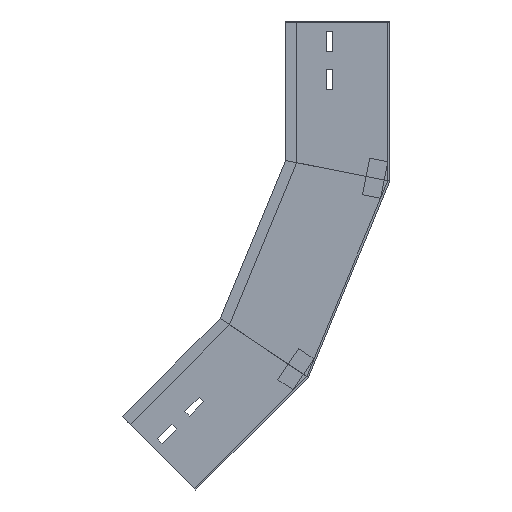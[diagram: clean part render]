
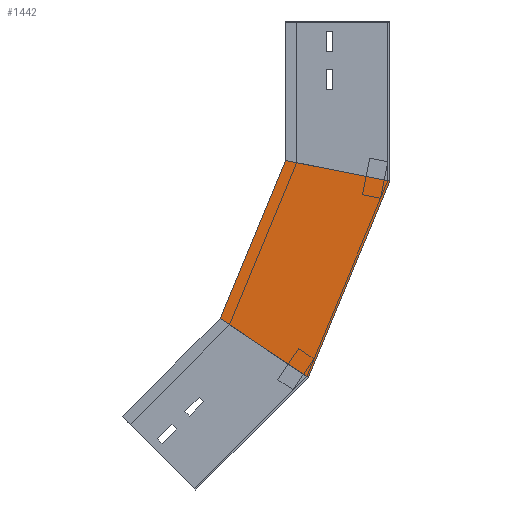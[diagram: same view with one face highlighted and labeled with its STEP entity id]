
A CAD part, left-side view. The second image highlights one B-rep face of the part: STEP entity #1442.
In plain terms, the highlighted planar face has unit normal (-1, 0, 0) as drawn and (1, 0, 0) by its records, which use the part's own axes.
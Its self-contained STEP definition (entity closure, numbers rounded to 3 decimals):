
#4 = VECTOR ( 'NONE', #918, 1000. ) ;
#60 = PLANE ( 'NONE',  #510 ) ;
#76 = VERTEX_POINT ( 'NONE', #132 ) ;
#132 = CARTESIAN_POINT ( 'NONE',  ( 0., 183.39, -320.866 ) ) ;
#171 = DIRECTION ( 'NONE',  ( 0., 0., 1. ) ) ;
#227 = VECTOR ( 'NONE', #762, 1000. ) ;
#373 = DIRECTION ( 'NONE',  ( -1., 0., 0. ) ) ;
#404 = ORIENTED_EDGE ( 'NONE', *, *, #1090, .F. ) ;
#462 = CARTESIAN_POINT ( 'NONE',  ( 0., 88.017, -384.592 ) ) ;
#510 = AXIS2_PLACEMENT_3D ( 'NONE', #860, #373, #171 ) ;
#536 = CARTESIAN_POINT ( 'NONE',  ( 0., 112.5, -149.722 ) ) ;
#544 = LINE ( 'NONE', #1118, #4 ) ;
#547 = ORIENTED_EDGE ( 'NONE', *, *, #555, .T. ) ;
#555 = EDGE_CURVE ( 'NONE', #1176, #1099, #708, .T. ) ;
#651 = LINE ( 'NONE', #1241, #1175 ) ;
#661 = EDGE_CURVE ( 'NONE', #1176, #76, #869, .T. ) ;
#705 = EDGE_LOOP ( 'NONE', ( #1315, #547, #1207, #404 ) ) ;
#708 = LINE ( 'NONE', #1173, #941 ) ;
#762 = DIRECTION ( 'NONE',  ( 0., 0.383, -0.924 ) ) ;
#808 = EDGE_CURVE ( 'NONE', #1099, #1299, #651, .T. ) ;
#860 = CARTESIAN_POINT ( 'NONE',  ( 0., 0., -172.1 ) ) ;
#869 = LINE ( 'NONE', #1326, #227 ) ;
#918 = DIRECTION ( 'NONE',  ( 0., -0.831, -0.556 ) ) ;
#941 = VECTOR ( 'NONE', #1190, 1000. ) ;
#1019 = CARTESIAN_POINT ( 'NONE',  ( 0., 0., -172.1 ) ) ;
#1029 = DIRECTION ( 'NONE',  ( 0., 0.383, -0.924 ) ) ;
#1090 = EDGE_CURVE ( 'NONE', #76, #1299, #544, .T. ) ;
#1099 = VERTEX_POINT ( 'NONE', #1019 ) ;
#1118 = CARTESIAN_POINT ( 'NONE',  ( 0., 125.326, -359.663 ) ) ;
#1173 = CARTESIAN_POINT ( 'NONE',  ( 0., 32.93, -165.55 ) ) ;
#1175 = VECTOR ( 'NONE', #1029, 1000. ) ;
#1176 = VERTEX_POINT ( 'NONE', #536 ) ;
#1190 = DIRECTION ( 'NONE',  ( 0., -0.981, -0.195 ) ) ;
#1207 = ORIENTED_EDGE ( 'NONE', *, *, #808, .T. ) ;
#1241 = CARTESIAN_POINT ( 'NONE',  ( 0., 0., -172.1 ) ) ;
#1299 = VERTEX_POINT ( 'NONE', #462 ) ;
#1315 = ORIENTED_EDGE ( 'NONE', *, *, #661, .F. ) ;
#1324 = FACE_OUTER_BOUND ( 'NONE', #705, .T. ) ;
#1326 = CARTESIAN_POINT ( 'NONE',  ( 0., 103.936, -129.048 ) ) ;
#1442 = ADVANCED_FACE ( 'NONE', ( #1324 ), #60, .F. ) ;
